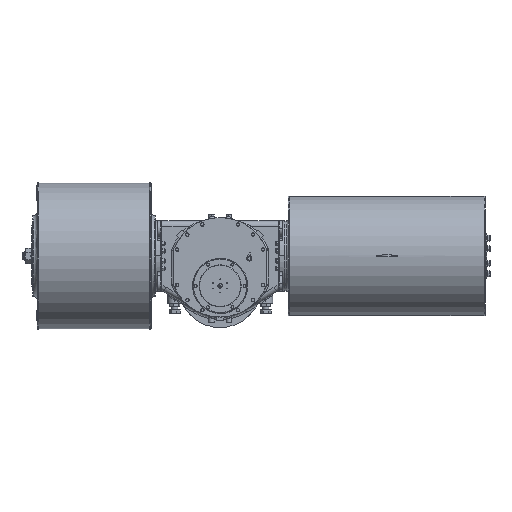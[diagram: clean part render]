
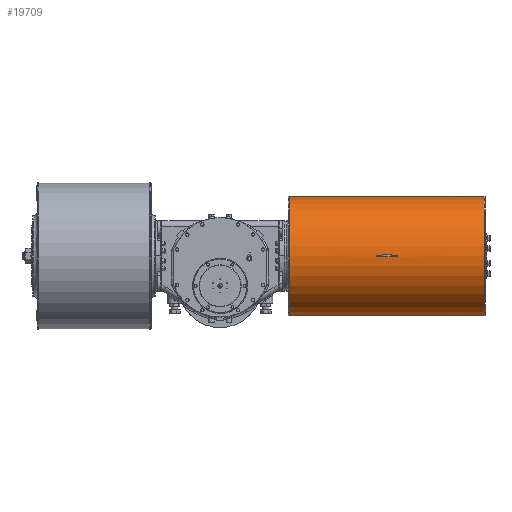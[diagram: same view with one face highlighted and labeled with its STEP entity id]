
A CAD part, top view. The second image highlights one B-rep face of the part: STEP entity #19709.
In plain terms, the highlighted cylindrical face has radius 340 mm (diameter 680 mm), a partial arc.
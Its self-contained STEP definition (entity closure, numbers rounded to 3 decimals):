
#152 = ORIENTED_EDGE ( 'NONE', *, *, #76261, .T. ) ;
#646 = EDGE_CURVE ( 'NONE', #56933, #3877, #32746, .T. ) ;
#1341 = CARTESIAN_POINT ( 'NONE',  ( 892., 171., 138. ) ) ;
#1720 = FACE_OUTER_BOUND ( 'NONE', #11781, .T. ) ;
#2347 = VERTEX_POINT ( 'NONE', #68732 ) ;
#2451 = CIRCLE ( 'NONE', #35939, 340. ) ;
#3662 = CIRCLE ( 'NONE', #38620, 340. ) ;
#3877 = VERTEX_POINT ( 'NONE', #82202 ) ;
#4463 = DIRECTION ( 'NONE',  ( -1., 0., 0. ) ) ;
#6114 = CARTESIAN_POINT ( 'NONE',  ( 1012., 171., 138. ) ) ;
#6570 = ORIENTED_EDGE ( 'NONE', *, *, #86157, .T. ) ;
#6860 = DIRECTION ( 'NONE',  ( -1., 0., 0. ) ) ;
#7765 = ORIENTED_EDGE ( 'NONE', *, *, #34313, .F. ) ;
#10096 = LINE ( 'NONE', #66496, #13156 ) ;
#10415 = AXIS2_PLACEMENT_3D ( 'NONE', #48613, #76322, #41785 ) ;
#11781 = EDGE_LOOP ( 'NONE', ( #19283, #25535, #6570, #7765 ) ) ;
#12141 = CARTESIAN_POINT ( 'NONE',  ( 1012., 176., 477.963 ) ) ;
#12582 = EDGE_CURVE ( 'NONE', #81318, #2347, #49244, .T. ) ;
#13156 = VECTOR ( 'NONE', #57914, 1000. ) ;
#14536 = DIRECTION ( 'NONE',  ( 0., -1., 0. ) ) ;
#18899 = VERTEX_POINT ( 'NONE', #86365 ) ;
#19283 = ORIENTED_EDGE ( 'NONE', *, *, #62402, .T. ) ;
#19709 = ADVANCED_FACE ( 'NONE', ( #21367, #1720 ), #29569, .T. ) ;
#20762 = ORIENTED_EDGE ( 'NONE', *, *, #12582, .F. ) ;
#21367 = FACE_BOUND ( 'NONE', #45376, .T. ) ;
#21902 = DIRECTION ( 'NONE',  ( 0., -1., 0. ) ) ;
#22260 = AXIS2_PLACEMENT_3D ( 'NONE', #50039, #35946, #14536 ) ;
#23747 = AXIS2_PLACEMENT_3D ( 'NONE', #69404, #82170, #68068 ) ;
#25494 = AXIS2_PLACEMENT_3D ( 'NONE', #78293, #77843, #21902 ) ;
#25535 = ORIENTED_EDGE ( 'NONE', *, *, #55030, .T. ) ;
#27113 = VERTEX_POINT ( 'NONE', #85090 ) ;
#29569 = CYLINDRICAL_SURFACE ( 'NONE', #22260, 340. ) ;
#31157 = AXIS2_PLACEMENT_3D ( 'NONE', #6114, #88974, #89422 ) ;
#32746 = LINE ( 'NONE', #80478, #83377 ) ;
#34313 = EDGE_CURVE ( 'NONE', #43981, #27113, #10096, .T. ) ;
#35939 = AXIS2_PLACEMENT_3D ( 'NONE', #59633, #73721, #39198 ) ;
#35946 = DIRECTION ( 'NONE',  ( -1., 0., 0. ) ) ;
#36784 = EDGE_CURVE ( 'NONE', #58710, #56933, #55467, .T. ) ;
#37232 = ORIENTED_EDGE ( 'NONE', *, *, #53875, .T. ) ;
#38620 = AXIS2_PLACEMENT_3D ( 'NONE', #1341, #41026, #61931 ) ;
#39198 = DIRECTION ( 'NONE',  ( 0., -1., 0. ) ) ;
#40705 = CARTESIAN_POINT ( 'NONE',  ( 1508.115, -169., 138. ) ) ;
#41026 = DIRECTION ( 'NONE',  ( -1., 0., 0. ) ) ;
#41785 = DIRECTION ( 'NONE',  ( 0., 0., 1. ) ) ;
#43102 = ORIENTED_EDGE ( 'NONE', *, *, #646, .T. ) ;
#43981 = VERTEX_POINT ( 'NONE', #40705 ) ;
#45376 = EDGE_LOOP ( 'NONE', ( #152, #60042, #43102, #53705, #37232, #20762 ) ) ;
#47741 = CARTESIAN_POINT ( 'NONE',  ( 1012., 166., 477.963 ) ) ;
#48613 = CARTESIAN_POINT ( 'NONE',  ( 1012., 171., 138. ) ) ;
#49244 = LINE ( 'NONE', #70120, #68083 ) ;
#50039 = CARTESIAN_POINT ( 'NONE',  ( 1502., 171., 138. ) ) ;
#53705 = ORIENTED_EDGE ( 'NONE', *, *, #88408, .T. ) ;
#53875 = EDGE_CURVE ( 'NONE', #59460, #2347, #62993, .T. ) ;
#55030 = EDGE_CURVE ( 'NONE', #82657, #18899, #58744, .T. ) ;
#55467 = CIRCLE ( 'NONE', #10415, 340. ) ;
#56933 = VERTEX_POINT ( 'NONE', #47741 ) ;
#57914 = DIRECTION ( 'NONE',  ( -1., 0., 0. ) ) ;
#58710 = VERTEX_POINT ( 'NONE', #67338 ) ;
#58744 = LINE ( 'NONE', #71059, #61683 ) ;
#59184 = DIRECTION ( 'NONE',  ( -1., 0., 0. ) ) ;
#59460 = VERTEX_POINT ( 'NONE', #65119 ) ;
#59633 = CARTESIAN_POINT ( 'NONE',  ( 1508.115, 171., 138. ) ) ;
#60042 = ORIENTED_EDGE ( 'NONE', *, *, #36784, .T. ) ;
#61683 = VECTOR ( 'NONE', #59184, 1000. ) ;
#61931 = DIRECTION ( 'NONE',  ( 0., 1., 0. ) ) ;
#62402 = EDGE_CURVE ( 'NONE', #43981, #82657, #2451, .T. ) ;
#62993 = CIRCLE ( 'NONE', #23747, 340. ) ;
#65119 = CARTESIAN_POINT ( 'NONE',  ( 892., 171., 478. ) ) ;
#66496 = CARTESIAN_POINT ( 'NONE',  ( 1502., -169., 138. ) ) ;
#67338 = CARTESIAN_POINT ( 'NONE',  ( 1012., 171., 478. ) ) ;
#68068 = DIRECTION ( 'NONE',  ( 0., 1., 0. ) ) ;
#68083 = VECTOR ( 'NONE', #6860, 1000. ) ;
#68732 = CARTESIAN_POINT ( 'NONE',  ( 892., 176., 477.963 ) ) ;
#69054 = CIRCLE ( 'NONE', #25494, 340. ) ;
#69404 = CARTESIAN_POINT ( 'NONE',  ( 892., 171., 138. ) ) ;
#70120 = CARTESIAN_POINT ( 'NONE',  ( 1502., 176., 477.963 ) ) ;
#71059 = CARTESIAN_POINT ( 'NONE',  ( 1502., 511., 138. ) ) ;
#73721 = DIRECTION ( 'NONE',  ( -1., 0., 0. ) ) ;
#75304 = CARTESIAN_POINT ( 'NONE',  ( 1508.115, 511., 138. ) ) ;
#76261 = EDGE_CURVE ( 'NONE', #81318, #58710, #87834, .T. ) ;
#76322 = DIRECTION ( 'NONE',  ( 1., 0., 0. ) ) ;
#77843 = DIRECTION ( 'NONE',  ( 1., 0., 0. ) ) ;
#78293 = CARTESIAN_POINT ( 'NONE',  ( 395.885, 171., 138. ) ) ;
#80478 = CARTESIAN_POINT ( 'NONE',  ( 1502., 166., 477.963 ) ) ;
#81318 = VERTEX_POINT ( 'NONE', #12141 ) ;
#82170 = DIRECTION ( 'NONE',  ( -1., 0., 0. ) ) ;
#82202 = CARTESIAN_POINT ( 'NONE',  ( 892., 166., 477.963 ) ) ;
#82657 = VERTEX_POINT ( 'NONE', #75304 ) ;
#83377 = VECTOR ( 'NONE', #4463, 1000. ) ;
#85090 = CARTESIAN_POINT ( 'NONE',  ( 395.885, -169., 138. ) ) ;
#86157 = EDGE_CURVE ( 'NONE', #18899, #27113, #69054, .T. ) ;
#86365 = CARTESIAN_POINT ( 'NONE',  ( 395.885, 511., 138. ) ) ;
#87834 = CIRCLE ( 'NONE', #31157, 340. ) ;
#88408 = EDGE_CURVE ( 'NONE', #3877, #59460, #3662, .T. ) ;
#88974 = DIRECTION ( 'NONE',  ( 1., 0., 0. ) ) ;
#89422 = DIRECTION ( 'NONE',  ( 0., 0., 1. ) ) ;
